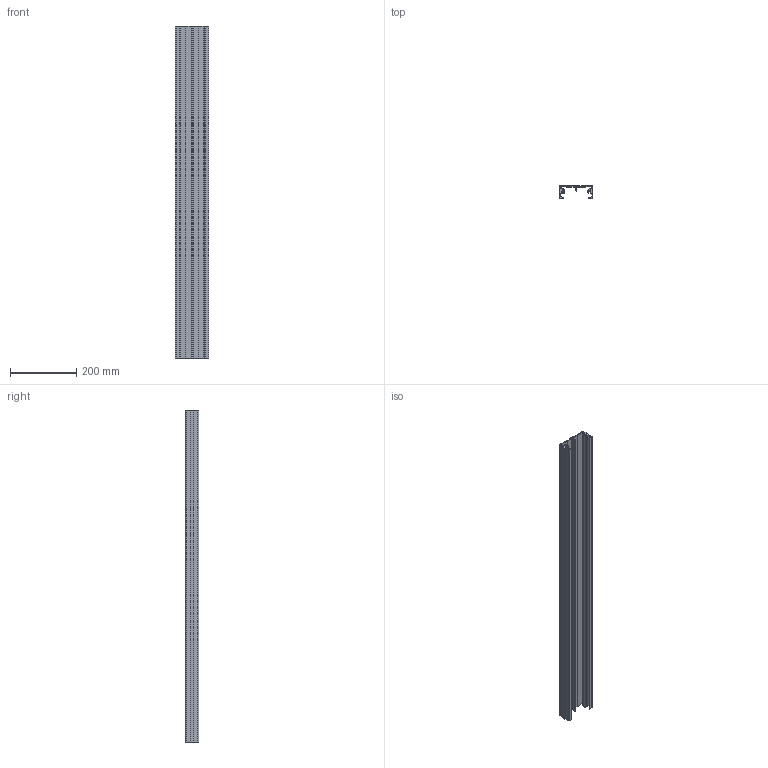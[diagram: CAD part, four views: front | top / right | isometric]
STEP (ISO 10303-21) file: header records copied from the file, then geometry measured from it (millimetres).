
FILE_DESCRIPTION (( 'STEP AP214' ), '1' );
FILE_NAME ('40õ100 ñòóïåíü.STEP', '2019-10-24T11:25:42', ( '' ), ( '' ), 'SwSTEP 2.0', 'SolidWorks 2014', '' );
FILE_SCHEMA (( 'AUTOMOTIVE_DESIGN' ));
Length unit declared in the file: millimetre
Products named in the file (2): 40õ100 ñòóïåíü
Bounding box: 102 x 40.02 x 1000 mm (x, y, z)
Volume: 829916.5 mm3; surface area: 486562.2 mm2
Topology: 1 solids, 1 shells, 132 faces, 390 edges, 260 vertices
Faces by surface type: cylinder 70, plane 62
Entity records: 4503 total; most frequent: DIRECTION 798, CARTESIAN_POINT 784, ORIENTED_EDGE 780, EDGE_CURVE 390, AXIS2_PLACEMENT_3D 274, VERTEX_POINT 260, LINE 250, VECTOR 250
